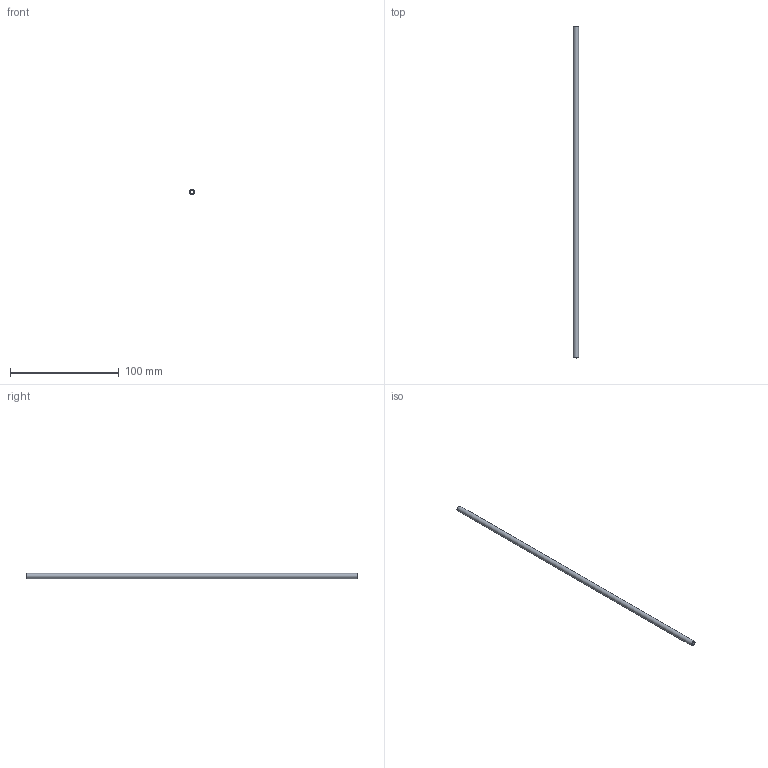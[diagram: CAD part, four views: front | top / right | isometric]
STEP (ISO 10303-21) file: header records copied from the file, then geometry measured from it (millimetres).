
FILE_DESCRIPTION(/* description */ (''),/* implementation_level */ '2;1');
FILE_NAME(/* name */ 'C:/Users/drich/Desktop/187T-12 v2.step',/* time_stamp */ '2019-12-27T17:26:18-06:00',/* author */ (''),/* organization */ (''),/* preprocessor_version */ 'ST-DEVELOPER v18',/* originating_system */ 'Autodesk Translation Framework v8.12.0.6',/* authorisation */ '');
FILE_SCHEMA (('AUTOMOTIVE_DESIGN { 1 0 10303 214 3 1 1 }'));
Length unit declared in the file: inch
Products named in the file (1): 187T-12
Bounding box: 4.73 x 304.8 x 4.73 mm (x, y, z)
Volume: 3011.4 mm3; surface area: 7533.1 mm2
Topology: 1 solids, 1 shells, 6 faces, 14 edges, 10 vertices
Faces by surface type: cone 2, cylinder 2, plane 2
Full cylindrical faces by diameter (mm): 3.124 x1, 4.727 x1
Entity records: 230 total; most frequent: DIRECTION 38, CARTESIAN_POINT 31, ORIENTED_EDGE 28, AXIS2_PLACEMENT_3D 17, EDGE_CURVE 14, CIRCLE 10, VERTEX_POINT 10, EDGE_LOOP 8
